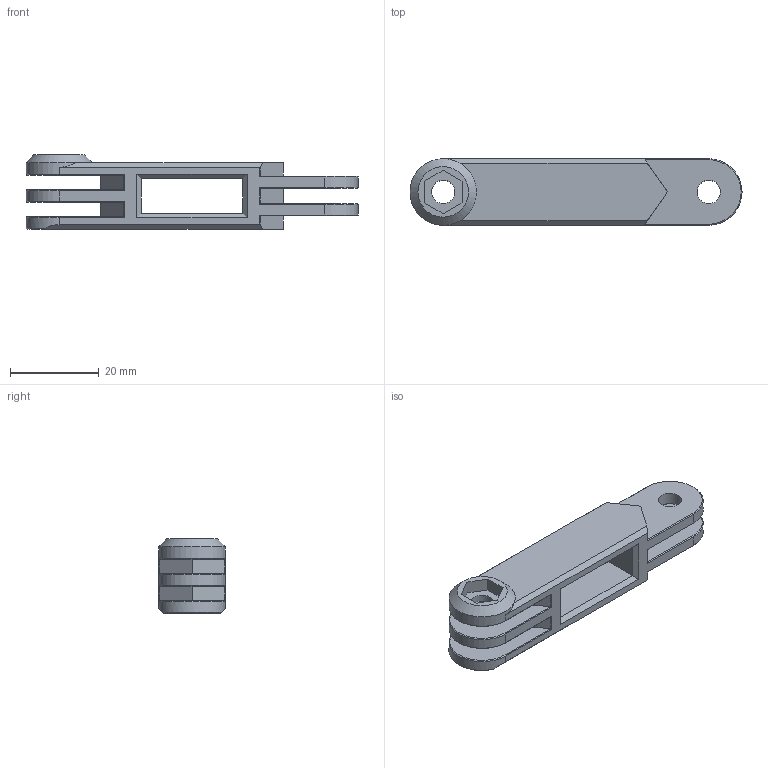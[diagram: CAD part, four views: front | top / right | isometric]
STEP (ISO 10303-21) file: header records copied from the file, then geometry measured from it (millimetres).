
FILE_DESCRIPTION(/* description */ ('STEP AP214'),/* implementation_level */ '2;1');
FILE_NAME(/* name */ '60a1425b25d25912eeacacf0',/* time_stamp */ '2021-05-16T16:03:40+00:00',/* author */ (''),/* organization */ (''),/* preprocessor_version */ 'ST-DEVELOPER v18.1',/* originating_system */ ' ',/* authorisation */ ' ');
FILE_SCHEMA (('AUTOMOTIVE_DESIGN {1 0 10303 214 3 1 1}'));
Length unit declared in the file: metre
Products named in the file (1): Arm Straight
Bounding box: 75 x 15 x 16.8 mm (x, y, z)
Volume: 8785.6 mm3; surface area: 6164.8 mm2
Topology: 1 solids, 1 shells, 92 faces, 246 edges, 157 vertices
Faces by surface type: plane 72, cylinder 10, cone 10
Full cylindrical faces by diameter (mm): 5.3 x5
Entity records: 2789 total; most frequent: CARTESIAN_POINT 484, ORIENTED_EDGE 468, DIRECTION 453, EDGE_CURVE 234, LINE 197, VECTOR 197, VERTEX_POINT 151, AXIS2_PLACEMENT_3D 128
